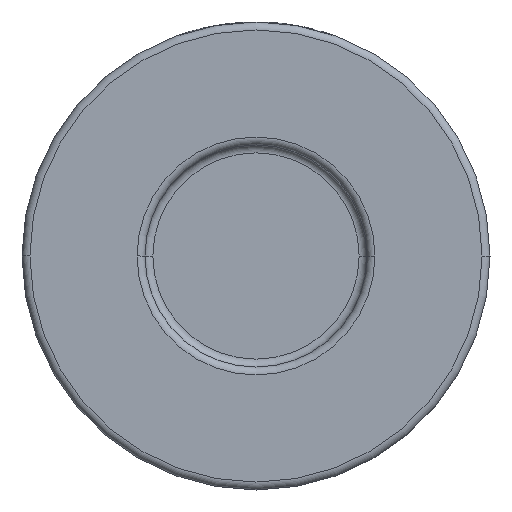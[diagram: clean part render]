
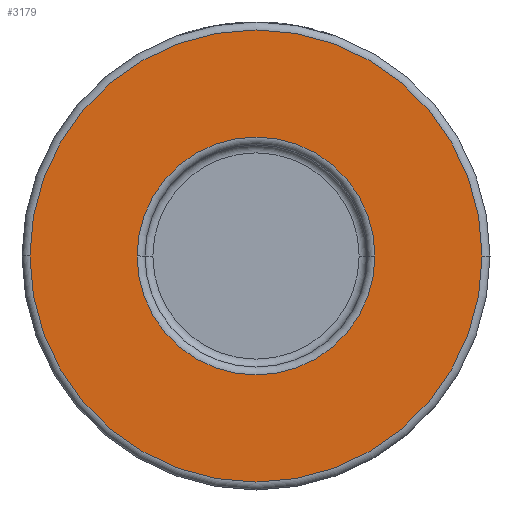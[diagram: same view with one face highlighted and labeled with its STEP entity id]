
A CAD part, front view. The second image highlights one B-rep face of the part: STEP entity #3179.
In plain terms, the highlighted planar face has unit normal (0, -1, 0).
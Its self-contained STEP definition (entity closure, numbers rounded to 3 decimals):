
#4 = CIRCLE ( 'NONE', #4413, 15. ) ;
#65 = VERTEX_POINT ( 'NONE', #3340 ) ;
#76 = DIRECTION ( 'NONE',  ( 0., -1., 0. ) ) ;
#116 = CARTESIAN_POINT ( 'NONE',  ( -15., -19., 0. ) ) ;
#281 = VERTEX_POINT ( 'NONE', #116 ) ;
#297 = AXIS2_PLACEMENT_3D ( 'NONE', #4195, #76, #3146 ) ;
#407 = AXIS2_PLACEMENT_3D ( 'NONE', #2719, #915, #3733 ) ;
#450 = DIRECTION ( 'NONE',  ( 0., 1., 0. ) ) ;
#915 = DIRECTION ( 'NONE',  ( 0., -1., 0. ) ) ;
#1079 = CIRCLE ( 'NONE', #407, 28.5 ) ;
#1488 = ORIENTED_EDGE ( 'NONE', *, *, #2094, .T. ) ;
#1692 = VERTEX_POINT ( 'NONE', #3641 ) ;
#1761 = FACE_OUTER_BOUND ( 'NONE', #2058, .T. ) ;
#1769 = DIRECTION ( 'NONE',  ( 1., 0., 0. ) ) ;
#1780 = PLANE ( 'NONE',  #297 ) ;
#1813 = AXIS2_PLACEMENT_3D ( 'NONE', #3043, #2666, #4019 ) ;
#2058 = EDGE_LOOP ( 'NONE', ( #1488, #4038 ) ) ;
#2094 = EDGE_CURVE ( 'NONE', #65, #1692, #1079, .T. ) ;
#2105 = CARTESIAN_POINT ( 'NONE',  ( 0., -19., 0. ) ) ;
#2236 = DIRECTION ( 'NONE',  ( 1., 0., 0. ) ) ;
#2516 = VERTEX_POINT ( 'NONE', #3975 ) ;
#2664 = DIRECTION ( 'NONE',  ( 0., 1., 0. ) ) ;
#2666 = DIRECTION ( 'NONE',  ( 0., -1., 0. ) ) ;
#2719 = CARTESIAN_POINT ( 'NONE',  ( 0., -19., 0. ) ) ;
#2768 = ORIENTED_EDGE ( 'NONE', *, *, #2808, .T. ) ;
#2808 = EDGE_CURVE ( 'NONE', #281, #2516, #4, .T. ) ;
#3043 = CARTESIAN_POINT ( 'NONE',  ( 0., -19., 0. ) ) ;
#3113 = AXIS2_PLACEMENT_3D ( 'NONE', #2105, #450, #1769 ) ;
#3146 = DIRECTION ( 'NONE',  ( 1., 0., 0. ) ) ;
#3179 = ADVANCED_FACE ( 'NONE', ( #3484, #1761 ), #1780, .T. ) ;
#3272 = EDGE_CURVE ( 'NONE', #1692, #65, #3762, .T. ) ;
#3340 = CARTESIAN_POINT ( 'NONE',  ( 28.5, -19., 0. ) ) ;
#3484 = FACE_BOUND ( 'NONE', #3968, .T. ) ;
#3601 = CARTESIAN_POINT ( 'NONE',  ( 0., -19., 0. ) ) ;
#3641 = CARTESIAN_POINT ( 'NONE',  ( -28.5, -19., 0. ) ) ;
#3733 = DIRECTION ( 'NONE',  ( 1., 0., 0. ) ) ;
#3762 = CIRCLE ( 'NONE', #1813, 28.5 ) ;
#3865 = ORIENTED_EDGE ( 'NONE', *, *, #4359, .T. ) ;
#3968 = EDGE_LOOP ( 'NONE', ( #3865, #2768 ) ) ;
#3975 = CARTESIAN_POINT ( 'NONE',  ( 15., -19., 0. ) ) ;
#4019 = DIRECTION ( 'NONE',  ( 1., 0., 0. ) ) ;
#4038 = ORIENTED_EDGE ( 'NONE', *, *, #3272, .T. ) ;
#4195 = CARTESIAN_POINT ( 'NONE',  ( 29.5, -19., 0. ) ) ;
#4201 = CIRCLE ( 'NONE', #3113, 15. ) ;
#4359 = EDGE_CURVE ( 'NONE', #2516, #281, #4201, .T. ) ;
#4413 = AXIS2_PLACEMENT_3D ( 'NONE', #3601, #2664, #2236 ) ;
